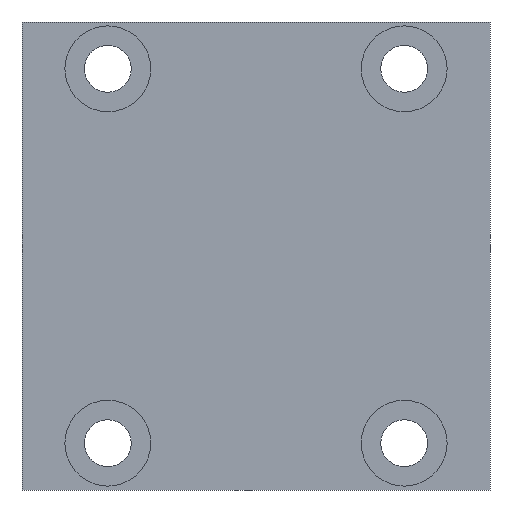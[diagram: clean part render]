
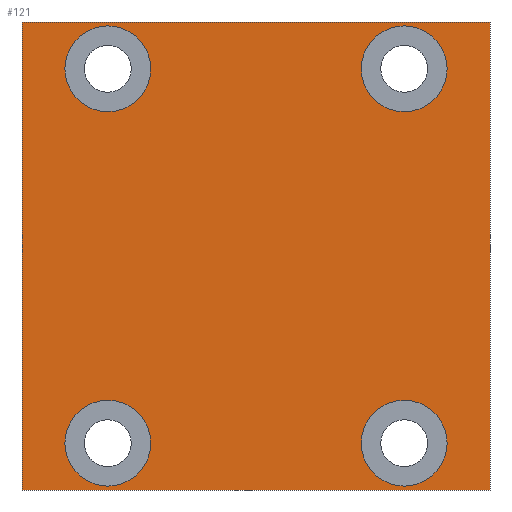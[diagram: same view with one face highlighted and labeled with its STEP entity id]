
A CAD part, front view. The second image highlights one B-rep face of the part: STEP entity #121.
In plain terms, the highlighted planar face has unit normal (0, -1, 0).
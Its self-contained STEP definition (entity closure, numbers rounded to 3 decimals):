
#60=FACE_BOUND('',#164,.T.);
#61=FACE_BOUND('',#165,.T.);
#62=FACE_BOUND('',#166,.T.);
#63=FACE_BOUND('',#167,.T.);
#64=FACE_BOUND('',#168,.T.);
#101=CIRCLE('',#363,5.5);
#102=CIRCLE('',#364,5.5);
#103=CIRCLE('',#365,5.5);
#104=CIRCLE('',#366,5.5);
#121=ADVANCED_FACE('',(#60,#61,#62,#63,#64),#139,.F.);
#139=PLANE('',#367);
#164=EDGE_LOOP('',(#222));
#165=EDGE_LOOP('',(#223));
#166=EDGE_LOOP('',(#224));
#167=EDGE_LOOP('',(#225));
#168=EDGE_LOOP('',(#226,#227,#228,#229));
#222=ORIENTED_EDGE('',*,*,#310,.T.);
#223=ORIENTED_EDGE('',*,*,#311,.T.);
#224=ORIENTED_EDGE('',*,*,#312,.T.);
#225=ORIENTED_EDGE('',*,*,#313,.T.);
#226=ORIENTED_EDGE('',*,*,#292,.F.);
#227=ORIENTED_EDGE('',*,*,#307,.F.);
#228=ORIENTED_EDGE('',*,*,#298,.F.);
#229=ORIENTED_EDGE('',*,*,#295,.F.);
#264=VERTEX_POINT('',#492);
#265=VERTEX_POINT('',#494);
#267=VERTEX_POINT('',#500);
#269=VERTEX_POINT('',#506);
#278=VERTEX_POINT('',#533);
#279=VERTEX_POINT('',#535);
#280=VERTEX_POINT('',#537);
#281=VERTEX_POINT('',#539);
#292=EDGE_CURVE('',#264,#265,#324,.T.);
#295=EDGE_CURVE('',#265,#267,#327,.T.);
#298=EDGE_CURVE('',#267,#269,#330,.T.);
#307=EDGE_CURVE('',#269,#264,#333,.T.);
#310=EDGE_CURVE('',#278,#278,#101,.T.);
#311=EDGE_CURVE('',#279,#279,#102,.T.);
#312=EDGE_CURVE('',#280,#280,#103,.T.);
#313=EDGE_CURVE('',#281,#281,#104,.T.);
#324=LINE('',#493,#336);
#327=LINE('',#499,#339);
#330=LINE('',#505,#342);
#333=LINE('',#525,#345);
#336=VECTOR('',#393,1.);
#339=VECTOR('',#398,1.);
#342=VECTOR('',#403,1.);
#345=VECTOR('',#426,1.);
#363=AXIS2_PLACEMENT_3D('',#532,#435,#436);
#364=AXIS2_PLACEMENT_3D('',#534,#437,#438);
#365=AXIS2_PLACEMENT_3D('',#536,#439,#440);
#366=AXIS2_PLACEMENT_3D('',#538,#441,#442);
#367=AXIS2_PLACEMENT_3D('',#540,#443,#444);
#393=DIRECTION('',(1.,0.,0.));
#398=DIRECTION('',(0.,0.,-1.));
#403=DIRECTION('',(-1.,0.,0.));
#426=DIRECTION('',(0.,0.,1.));
#435=DIRECTION('',(0.,1.,0.));
#436=DIRECTION('',(0.,0.,1.));
#437=DIRECTION('',(0.,1.,0.));
#438=DIRECTION('',(0.,0.,1.));
#439=DIRECTION('',(0.,1.,0.));
#440=DIRECTION('',(0.,0.,1.));
#441=DIRECTION('',(0.,1.,0.));
#442=DIRECTION('',(0.,0.,1.));
#443=DIRECTION('',(0.,1.,0.));
#444=DIRECTION('',(0.,0.,1.));
#492=CARTESIAN_POINT('',(-30.,-378.,60.));
#493=CARTESIAN_POINT('',(-30.,-378.,60.));
#494=CARTESIAN_POINT('',(30.,-378.,60.));
#499=CARTESIAN_POINT('',(30.,-378.,60.));
#500=CARTESIAN_POINT('',(30.,-378.,0.));
#505=CARTESIAN_POINT('',(30.,-378.,0.));
#506=CARTESIAN_POINT('',(-30.,-378.,0.));
#525=CARTESIAN_POINT('',(-30.,-378.,0.));
#532=CARTESIAN_POINT('',(-19.,-378.,54.));
#533=CARTESIAN_POINT('',(-19.,-378.,59.5));
#534=CARTESIAN_POINT('',(-19.,-378.,6.));
#535=CARTESIAN_POINT('',(-19.,-378.,11.5));
#536=CARTESIAN_POINT('',(19.,-378.,6.));
#537=CARTESIAN_POINT('',(19.,-378.,11.5));
#538=CARTESIAN_POINT('',(19.,-378.,54.));
#539=CARTESIAN_POINT('',(19.,-378.,59.5));
#540=CARTESIAN_POINT('',(-19.,-378.,6.));
